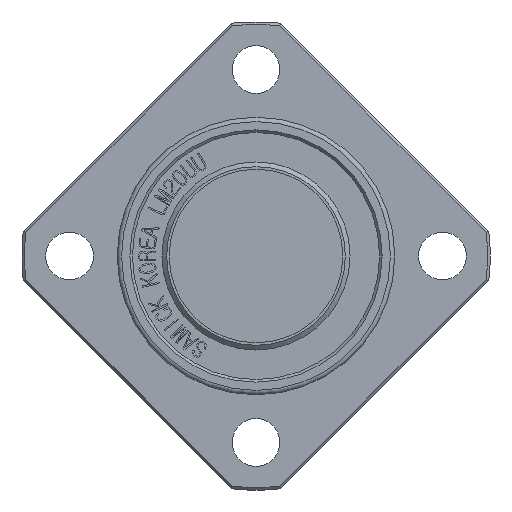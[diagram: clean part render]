
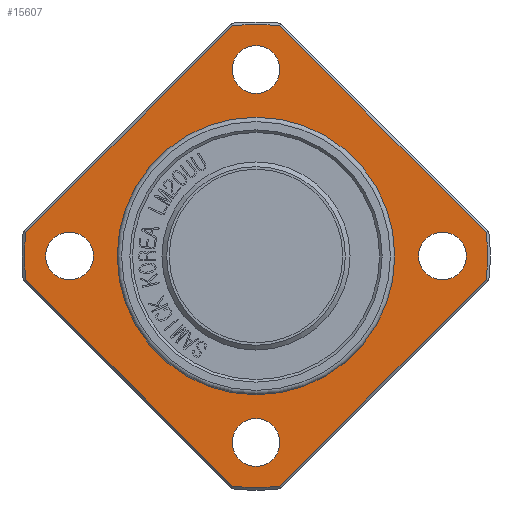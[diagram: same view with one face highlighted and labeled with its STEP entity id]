
A CAD part, front view. The second image highlights one B-rep face of the part: STEP entity #15607.
In plain terms, the highlighted planar face has unit normal (0, -1, 0).
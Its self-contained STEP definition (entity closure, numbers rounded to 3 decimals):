
#2209=FACE_BOUND('',#3238,.T.);
#2210=FACE_BOUND('',#3239,.T.);
#2211=FACE_BOUND('',#3240,.T.);
#2212=FACE_BOUND('',#3241,.T.);
#2213=FACE_BOUND('',#3242,.T.);
#2274=CIRCLE('',#16488,26.7);
#2277=CIRCLE('',#16496,26.7);
#2278=CIRCLE('',#16497,26.7);
#2279=CIRCLE('',#16498,26.7);
#2280=CIRCLE('',#16499,2.75);
#2281=CIRCLE('',#16500,2.75);
#2282=CIRCLE('',#16501,2.75);
#2283=CIRCLE('',#16502,2.75);
#2284=CIRCLE('',#16503,16.);
#2285=CIRCLE('',#16504,16.);
#2373=FACE_OUTER_BOUND('',#3237,.T.);
#3237=EDGE_LOOP('',(#10533,#10534,#10535,#10536,#10537,#10538,#10539,#10540));
#3238=EDGE_LOOP('',(#10541));
#3239=EDGE_LOOP('',(#10542));
#3240=EDGE_LOOP('',(#10543));
#3241=EDGE_LOOP('',(#10544));
#3242=EDGE_LOOP('',(#10545,#10546));
#4159=LINE('',#18701,#5303);
#4165=LINE('',#18745,#5309);
#4167=LINE('',#18751,#5311);
#4168=LINE('',#18755,#5312);
#5303=VECTOR('',#16843,10.);
#5309=VECTOR('',#16867,10.);
#5311=VECTOR('',#16873,10.);
#5312=VECTOR('',#16876,10.);
#6464=VERTEX_POINT('',#18696);
#6465=VERTEX_POINT('',#18700);
#6468=VERTEX_POINT('',#18710);
#6476=VERTEX_POINT('',#18741);
#6477=VERTEX_POINT('',#18748);
#6478=VERTEX_POINT('',#18750);
#6479=VERTEX_POINT('',#18752);
#6480=VERTEX_POINT('',#18754);
#6481=VERTEX_POINT('',#18757);
#6482=VERTEX_POINT('',#18759);
#6483=VERTEX_POINT('',#18761);
#6484=VERTEX_POINT('',#18763);
#6485=VERTEX_POINT('',#18765);
#6486=VERTEX_POINT('',#18766);
#8084=EDGE_CURVE('',#6464,#6465,#4159,.T.);
#8089=EDGE_CURVE('',#6464,#6468,#2274,.T.);
#8100=EDGE_CURVE('',#6476,#6468,#4165,.T.);
#8102=EDGE_CURVE('',#6476,#6477,#2277,.T.);
#8103=EDGE_CURVE('',#6478,#6477,#4167,.T.);
#8104=EDGE_CURVE('',#6478,#6479,#2278,.T.);
#8105=EDGE_CURVE('',#6480,#6479,#4168,.T.);
#8106=EDGE_CURVE('',#6480,#6465,#2279,.T.);
#8107=EDGE_CURVE('',#6481,#6481,#2280,.T.);
#8108=EDGE_CURVE('',#6482,#6482,#2281,.T.);
#8109=EDGE_CURVE('',#6483,#6483,#2282,.T.);
#8110=EDGE_CURVE('',#6484,#6484,#2283,.T.);
#8111=EDGE_CURVE('',#6485,#6486,#2284,.T.);
#8112=EDGE_CURVE('',#6486,#6485,#2285,.T.);
#10533=ORIENTED_EDGE('',*,*,#8084,.F.);
#10534=ORIENTED_EDGE('',*,*,#8089,.T.);
#10535=ORIENTED_EDGE('',*,*,#8100,.F.);
#10536=ORIENTED_EDGE('',*,*,#8102,.T.);
#10537=ORIENTED_EDGE('',*,*,#8103,.F.);
#10538=ORIENTED_EDGE('',*,*,#8104,.T.);
#10539=ORIENTED_EDGE('',*,*,#8105,.F.);
#10540=ORIENTED_EDGE('',*,*,#8106,.T.);
#10541=ORIENTED_EDGE('',*,*,#8107,.T.);
#10542=ORIENTED_EDGE('',*,*,#8108,.T.);
#10543=ORIENTED_EDGE('',*,*,#8109,.T.);
#10544=ORIENTED_EDGE('',*,*,#8110,.T.);
#10545=ORIENTED_EDGE('',*,*,#8111,.F.);
#10546=ORIENTED_EDGE('',*,*,#8112,.F.);
#15365=PLANE('',#16495);
#15607=ADVANCED_FACE('',(#2373,#2209,#2210,#2211,#2212,#2213),#15365,.T.);
#16488=AXIS2_PLACEMENT_3D('',#18714,#16849,#16850);
#16495=AXIS2_PLACEMENT_3D('',#18747,#16869,#16870);
#16496=AXIS2_PLACEMENT_3D('',#18749,#16871,#16872);
#16497=AXIS2_PLACEMENT_3D('',#18753,#16874,#16875);
#16498=AXIS2_PLACEMENT_3D('',#18756,#16877,#16878);
#16499=AXIS2_PLACEMENT_3D('',#18758,#16879,#16880);
#16500=AXIS2_PLACEMENT_3D('',#18760,#16881,#16882);
#16501=AXIS2_PLACEMENT_3D('',#18762,#16883,#16884);
#16502=AXIS2_PLACEMENT_3D('',#18764,#16885,#16886);
#16503=AXIS2_PLACEMENT_3D('',#18767,#16887,#16888);
#16504=AXIS2_PLACEMENT_3D('',#18768,#16889,#16890);
#16843=DIRECTION('',(0.707,0.,-0.707));
#16849=DIRECTION('center_axis',(0.,-1.,0.));
#16850=DIRECTION('ref_axis',(1.,0.,0.));
#16867=DIRECTION('',(0.707,0.,0.707));
#16869=DIRECTION('center_axis',(0.,-1.,0.));
#16870=DIRECTION('ref_axis',(0.,0.,-1.));
#16871=DIRECTION('center_axis',(0.,-1.,0.));
#16872=DIRECTION('ref_axis',(1.,0.,0.));
#16873=DIRECTION('',(-0.707,0.,0.707));
#16874=DIRECTION('center_axis',(0.,-1.,0.));
#16875=DIRECTION('ref_axis',(1.,0.,0.));
#16876=DIRECTION('',(-0.707,0.,-0.707));
#16877=DIRECTION('center_axis',(0.,-1.,0.));
#16878=DIRECTION('ref_axis',(1.,0.,0.));
#16879=DIRECTION('center_axis',(0.,1.,0.));
#16880=DIRECTION('ref_axis',(0.,0.,
1.));
#16881=DIRECTION('center_axis',(0.,1.,0.));
#16882=DIRECTION('ref_axis',(-1.,0.,0.));
#16883=DIRECTION('center_axis',(0.,1.,0.));
#16884=DIRECTION('ref_axis',(0.,0.,
-1.));
#16885=DIRECTION('center_axis',(0.,1.,0.));
#16886=DIRECTION('ref_axis',(1.,0.,0.));
#16887=DIRECTION('center_axis',(0.,-1.,0.));
#16888=DIRECTION('ref_axis',(1.,0.,0.));
#16889=DIRECTION('center_axis',(0.,-1.,0.));
#16890=DIRECTION('ref_axis',(1.,0.,0.));
#18696=CARTESIAN_POINT('',(2.712,-4.,26.562));
#18700=CARTESIAN_POINT('',(26.562,-4.,2.712));
#18701=CARTESIAN_POINT('',(24.637,-4.,4.637));
#18710=CARTESIAN_POINT('',(-2.712,-4.,26.562));
#18714=CARTESIAN_POINT('Origin',(0.,-4.,0.));
#18741=CARTESIAN_POINT('',(-26.562,-4.,2.712));
#18745=CARTESIAN_POINT('',(-4.637,-4.,24.637));
#18747=CARTESIAN_POINT('Origin',(16.,-4.,0.));
#18748=CARTESIAN_POINT('',(-26.562,-4.,-2.712));
#18749=CARTESIAN_POINT('Origin',(0.,-4.,0.));
#18750=CARTESIAN_POINT('',(-2.712,-4.,-26.562));
#18751=CARTESIAN_POINT('',(-16.637,-4.,-12.637));
#18752=CARTESIAN_POINT('',(2.712,-4.,-26.562));
#18753=CARTESIAN_POINT('Origin',(0.,-4.,0.));
#18754=CARTESIAN_POINT('',(26.562,-4.,-2.712));
#18755=CARTESIAN_POINT('',(12.637,-4.,-16.637));
#18756=CARTESIAN_POINT('Origin',(0.,-4.,0.));
#18757=CARTESIAN_POINT('',(0.,-4.,18.75));
#18758=CARTESIAN_POINT('Origin',(0.,-4.,21.5));
#18759=CARTESIAN_POINT('',(-18.75,-4.,0.));
#18760=CARTESIAN_POINT('Origin',(-21.5,-4.,0.));
#18761=CARTESIAN_POINT('',(0.,-4.,-18.75));
#18762=CARTESIAN_POINT('Origin',(0.,-4.,-21.5));
#18763=CARTESIAN_POINT('',(18.75,-4.,0.));
#18764=CARTESIAN_POINT('Origin',(21.5,-4.,0.));
#18765=CARTESIAN_POINT('',(16.,-4.,0.));
#18766=CARTESIAN_POINT('',(-16.,-4.,0.));
#18767=CARTESIAN_POINT('Origin',(0.,-4.,
0.));
#18768=CARTESIAN_POINT('Origin',(0.,-4.,
0.));
